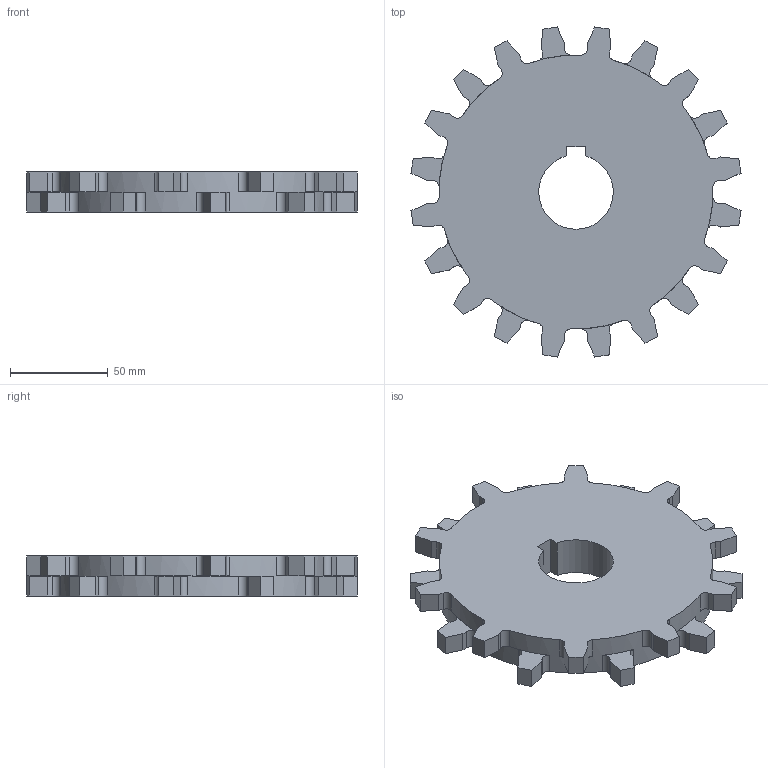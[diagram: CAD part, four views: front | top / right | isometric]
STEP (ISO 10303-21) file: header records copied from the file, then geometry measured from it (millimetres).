
FILE_DESCRIPTION((''),'2;1');
FILE_NAME('S2600_SPROCKET_65_RND','2008-12-12T',('jmumphre'),(''),'PRO/ENGINEER BY PARAMETRIC TECHNOLOGY CORPORATION, 2008150','PRO/ENGINEER BY PARAMETRIC TECHNOLOGY CORPORATION, 2008150','');
FILE_SCHEMA(('CONFIG_CONTROL_DESIGN'));
Length unit declared in the file: inch
Products named in the file (1): S2600_SPROCKET_65_RND
Bounding box: 168.73 x 168.73 x 20.45 mm (x, y, z)
Volume: 322949.2 mm3; surface area: 51453.4 mm2
Topology: 1 solids, 1 shells, 168 faces, 498 edges, 332 vertices
Faces by surface type: plane 125, cylinder 43
Entity records: 5672 total; most frequent: CARTESIAN_POINT 998, ORIENTED_EDGE 996, DIRECTION 960, EDGE_CURVE 498, VECTOR 372, LINE 372, VERTEX_POINT 332, AXIS2_PLACEMENT_3D 294
